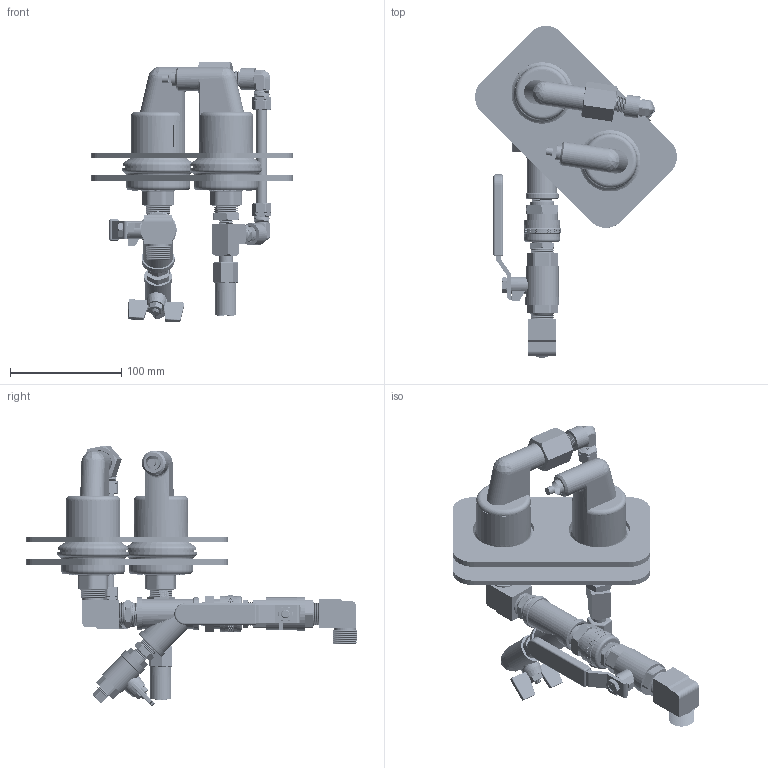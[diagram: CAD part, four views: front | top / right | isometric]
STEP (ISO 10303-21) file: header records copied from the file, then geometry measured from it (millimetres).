
FILE_DESCRIPTION(/* description */ (''),/* implementation_level */ '2;1');
FILE_NAME(/* name */ 'C:\Vault Local\Designs\CAD\Manufacturing\ECS Products\PAV-WS Monitored Automatic Air Vent\Export\PAV-WS.stp',/* time_stamp */ '2020-12-22T10:16:17-06:00',/* author */ ('Shommes'),/* organization */ (''),/* preprocessor_version */ 'ST-DEVELOPER v18.1',/* originating_system */ 'Autodesk Inventor 2020',/* authorisation */ '');
FILE_SCHEMA (('AUTOMOTIVE_DESIGN { 1 0 10303 214 3 1 1 }'));
Products named in the file (1): PAV-WS_Shrinkwrap_1
Bounding box: 181.64 x 298.75 x 234.96 mm (x, y, z)
Volume: 705429.5 mm3; surface area: 225147.4 mm2
Topology: 7 solids, 7 shells, 4421 faces, 11041 edges, 6730 vertices
Faces by surface type: plane 2754, cylinder 819, cone 546, bspline 242, torus 36, sphere 24
Full cylindrical faces by diameter (mm): 5.527 x9, 6.221 x8, 6.272 x1, 6.35 x2, 6.729 x1, 6.985 x2, 7.057 x10, 7.112 x1, 7.785 x9, 7.836 x2, 7.899 x1, 7.925 x4, 7.976 x2, 8.636 x1, 9.525 x1, 9.703 x4, 10.945 x1, 11.071 x1, 11.112 x2, 11.741 x2, 11.995 x2, 12.171 x2, 12.359 x1, 12.494 x1, 12.684 x2, 12.7 x6, 12.913 x16, 12.968 x2, 12.979 x2, 13.714 x2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
Entity records: 215941 total; most frequent: CARTESIAN_POINT 108253, ORIENTED_EDGE 22038, DIRECTION 21159, EDGE_CURVE 11019, AXIS2_PLACEMENT_3D 7625, VERTEX_POINT 6730, LINE 5909, VECTOR 5909
